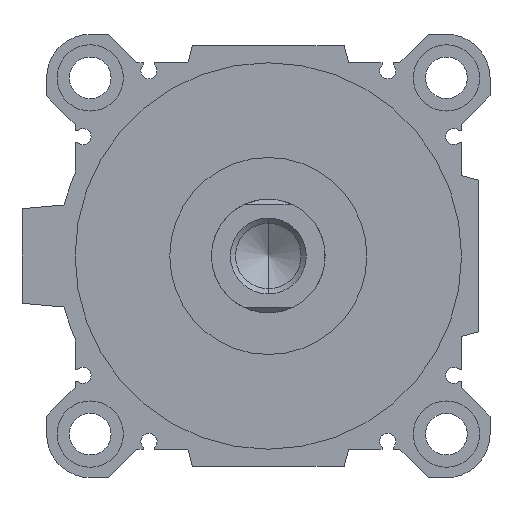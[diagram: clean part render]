
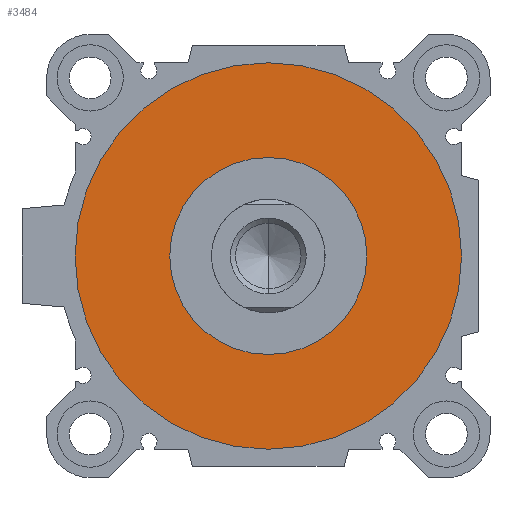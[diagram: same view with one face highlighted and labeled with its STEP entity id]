
A CAD part, left-side view. The second image highlights one B-rep face of the part: STEP entity #3484.
In plain terms, the highlighted planar face has unit normal (-1, 0, 0).
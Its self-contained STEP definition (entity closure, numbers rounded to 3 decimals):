
#6 = DIRECTION ( 'NONE',  ( 0., 0., -1. ) ) ;
#63 = CARTESIAN_POINT ( 'NONE',  ( 6.5, 0., -51. ) ) ;
#535 = FACE_OUTER_BOUND ( 'NONE', #1975, .T. ) ;
#801 = CARTESIAN_POINT ( 'NONE',  ( 6.5, 0., 0. ) ) ;
#925 = DIRECTION ( 'NONE',  ( 0., 0., -1. ) ) ;
#1359 = CIRCLE ( 'NONE', #1963, 51. ) ;
#1368 = PLANE ( 'NONE',  #2794 ) ;
#1441 = CARTESIAN_POINT ( 'NONE',  ( 6.5, 0., 51. ) ) ;
#1467 = DIRECTION ( 'NONE',  ( 1., 0., 0. ) ) ;
#1480 = CARTESIAN_POINT ( 'NONE',  ( 6.5, 0., -26. ) ) ;
#1668 = DIRECTION ( 'NONE',  ( 1., 0., 0. ) ) ;
#1717 = ORIENTED_EDGE ( 'NONE', *, *, #2622, .F. ) ;
#1743 = VERTEX_POINT ( 'NONE', #63 ) ;
#1770 = EDGE_CURVE ( 'NONE', #2548, #5374, #2300, .T. ) ;
#1791 = EDGE_CURVE ( 'NONE', #5374, #2548, #2211, .T. ) ;
#1963 = AXIS2_PLACEMENT_3D ( 'NONE', #801, #5053, #6 ) ;
#1975 = EDGE_LOOP ( 'NONE', ( #1717, #4914 ) ) ;
#2211 = CIRCLE ( 'NONE', #2558, 26. ) ;
#2229 = DIRECTION ( 'NONE',  ( 1., 0., 0. ) ) ;
#2300 = CIRCLE ( 'NONE', #2998, 26. ) ;
#2449 = ORIENTED_EDGE ( 'NONE', *, *, #1770, .T. ) ;
#2548 = VERTEX_POINT ( 'NONE', #2871 ) ;
#2558 = AXIS2_PLACEMENT_3D ( 'NONE', #4008, #1467, #3954 ) ;
#2622 = EDGE_CURVE ( 'NONE', #5013, #1743, #1359, .T. ) ;
#2662 = CARTESIAN_POINT ( 'NONE',  ( 6.5, 0., 0. ) ) ;
#2794 = AXIS2_PLACEMENT_3D ( 'NONE', #2662, #2229, #4803 ) ;
#2869 = CARTESIAN_POINT ( 'NONE',  ( 6.5, 0., 0. ) ) ;
#2871 = CARTESIAN_POINT ( 'NONE',  ( 6.5, 0., 26. ) ) ;
#2998 = AXIS2_PLACEMENT_3D ( 'NONE', #3014, #4717, #925 ) ;
#3014 = CARTESIAN_POINT ( 'NONE',  ( 6.5, 0., 0. ) ) ;
#3271 = CIRCLE ( 'NONE', #4254, 51. ) ;
#3345 = DIRECTION ( 'NONE',  ( 0., 0., -1. ) ) ;
#3484 = ADVANCED_FACE ( 'NONE', ( #535, #4744 ), #1368, .F. ) ;
#3895 = ORIENTED_EDGE ( 'NONE', *, *, #1791, .T. ) ;
#3897 = EDGE_CURVE ( 'NONE', #1743, #5013, #3271, .T. ) ;
#3954 = DIRECTION ( 'NONE',  ( 0., 0., -1. ) ) ;
#4008 = CARTESIAN_POINT ( 'NONE',  ( 6.5, 0., 0. ) ) ;
#4254 = AXIS2_PLACEMENT_3D ( 'NONE', #2869, #1668, #3345 ) ;
#4717 = DIRECTION ( 'NONE',  ( 1., 0., 0. ) ) ;
#4744 = FACE_BOUND ( 'NONE', #5120, .T. ) ;
#4803 = DIRECTION ( 'NONE',  ( 0., 1., 0. ) ) ;
#4914 = ORIENTED_EDGE ( 'NONE', *, *, #3897, .F. ) ;
#5013 = VERTEX_POINT ( 'NONE', #1441 ) ;
#5053 = DIRECTION ( 'NONE',  ( 1., 0., 0. ) ) ;
#5120 = EDGE_LOOP ( 'NONE', ( #2449, #3895 ) ) ;
#5374 = VERTEX_POINT ( 'NONE', #1480 ) ;
